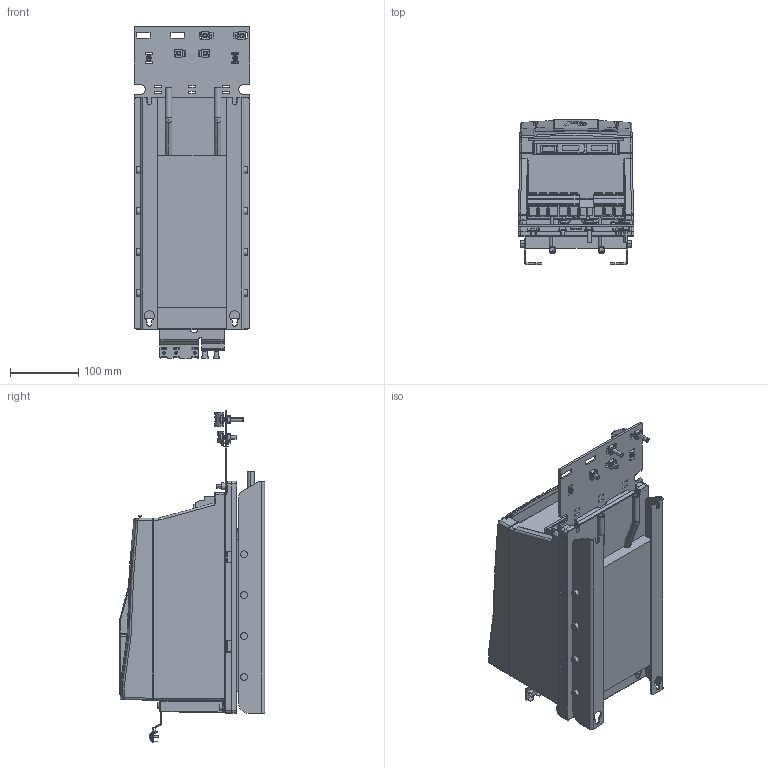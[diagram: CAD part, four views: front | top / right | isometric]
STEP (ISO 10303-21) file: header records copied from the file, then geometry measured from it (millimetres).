
FILE_DESCRIPTION (( 'STEP AP214' ), '1' );
FILE_NAME ('F6-3 TW0-P151.STEP', '2024-08-27T10:19:06', ( '' ), ( '' ), 'SwSTEP 2.0', 'SolidWorks 2022', '' );
FILE_SCHEMA (( 'AUTOMOTIVE_DESIGN' ));
Length unit declared in the file: millimetre
Products named in the file (13): Kundenmodell^10040482_000; F6-3 TW0-P151; Kundenmodell^10047114_000; 10051076_000_Kundenmodell; 10061030_000_Kundenmodell; 10040482_000_Kundenmodell; Kundenmodell^10068344_000; Kundenmodell^10059764_000; Kundenmodell^10051076_000_Kundenmodell mit Geberbuchsen; 10059764_000_Blindabdeckung (Kundenmodell); 10068344_000_Leistungsteil TR0 (Kundenmodell); 10047114_000_Kundenmodell; Kundenmodell^10061030_000
Assembly tree (12 placements, depth 4):
  F6-3 TW0-P151
    10068344_000_Leistungsteil TR0 (Kundenmodell)
      Kundenmodell^10068344_000
    10040482_000_Kundenmodell
      Kundenmodell^10040482_000
    10051076_000_Kundenmodell
      10059764_000_Blindabdeckung (Kundenmodell)
        Kundenmodell^10059764_000
      Kundenmodell^10051076_000_Kundenmodell mit Geberbuchsen
    10061030_000_Kundenmodell
      Kundenmodell^10061030_000
    10047114_000_Kundenmodell
      Kundenmodell^10047114_000
Bounding box: 170 x 212.9 x 486.8 mm (x, y, z)
Volume: 8140122.3 mm3; surface area: 703452.8 mm2
Topology: 16 solids, 21 shells, 3211 faces, 8449 edges, 5347 vertices
Faces by surface type: plane 1484, cylinder 1075, bspline 372, cone 119, torus 107, sphere 54
Entity records: 112915 total; most frequent: CARTESIAN_POINT 31688, ORIENTED_EDGE 16778, DIRECTION 15230, EDGE_CURVE 8389, VERTEX_POINT 5347, AXIS2_PLACEMENT_3D 5277, LINE 4676, VECTOR 4676
